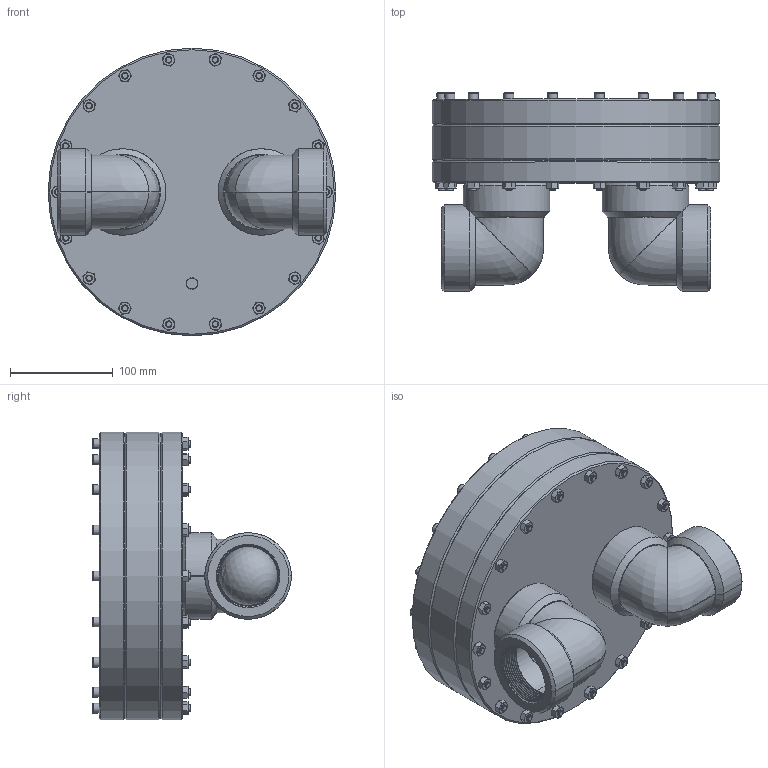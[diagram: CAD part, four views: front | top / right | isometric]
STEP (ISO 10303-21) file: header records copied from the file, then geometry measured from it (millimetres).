
FILE_DESCRIPTION(/* description */ (''),/* implementation_level */ '2;1');
FILE_NAME(/* name */ 'Z:\Models\NL_NLB Series\EB10NLB16\drawings\BD16PNxx External Assembly.stp',/* time_stamp */ '2018-03-02T17:33:47-05:00',/* author */ ('Owner'),/* organization */ (''),/* preprocessor_version */ 'ST-DEVELOPER v15.6',/* originating_system */ 'Autodesk Inventor 2015',/* authorisation */ '');
FILE_SCHEMA (('CONFIG_CONTROL_DESIGN'));
Length unit declared in the file: inch
Products named in the file (7): BD16PNX; BD16PxT External; BD16Pxx; ANSI B18.3 - 1_4-28 UNF - 3.5(31); ANSI B18.2.2 - 1_4 - 28(2); 4443K619(1); BD16SNN4B Brochure View
Assembly tree (41 placements, depth 2):
  BD16SNN4B Brochure View
    BD16PNX
    BD16PxT External
    BD16Pxx
    4443K619(1)  x2
    ANSI B18.3 - 1_4-28 UNF - 3.5(31)  x18
    ANSI B18.2.2 - 1_4 - 28(2)  x18
Bounding box: 279.4 x 193.17 x 279.4 mm (x, y, z)
Volume: 4005004.3 mm3; surface area: 669164.7 mm2
Topology: 39 solids, 191 shells, 968 faces, 2879 edges, 2170 vertices
Faces by surface type: cone 393, plane 353, cylinder 148, torus 48, bspline 24, sphere 2
Full cylindrical faces by diameter (mm): 3.175 x1, 5.359 x18, 6.35 x18, 6.528 x54, 9.525 x18, 10.719 x2, 60.325 x2, 92.329 x1, 99.644 x1, 231.8 x1, 238.887 x1, 244.475 x2, 251.536 x2, 279.4 x3
Entity records: 31517 total; most frequent: CARTESIAN_POINT 23872, DIRECTION 1386, ORIENTED_EDGE 1111, EDGE_CURVE 811, VERTEX_POINT 763, AXIS2_PLACEMENT_3D 603, EDGE_LOOP 478, CIRCLE 297
